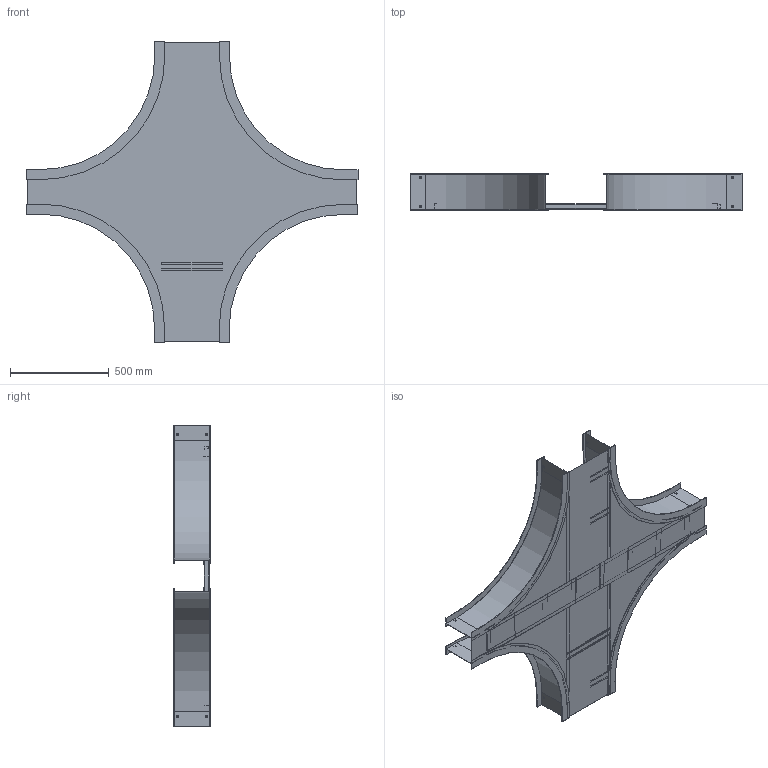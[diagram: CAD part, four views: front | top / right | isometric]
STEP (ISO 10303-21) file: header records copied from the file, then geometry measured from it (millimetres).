
FILE_DESCRIPTION((''),'2;1');
FILE_NAME('AHF70612SEX24_ASM','2010-02-01T',('erouzier'),(''),'PRO/ENGINEER BY PARAMETRIC TECHNOLOGY CORPORATION, 2008510','PRO/ENGINEER BY PARAMETRIC TECHNOLOGY CORPORATION, 2008510','');
FILE_SCHEMA(('CONFIG_CONTROL_DESIGN'));
Length unit declared in the file: inch
Products named in the file (18): CDS001813-7-90-24-I; CDS002159L6_AF8; CDS002159L6_AF9; CDS002159L6_AF10; CDS002159L6_AF11; CDS002159L6_AF12; CDS002159L6_AF13; CDS002159L6_AF14; CDS002159L6_AF15; CDS000495_GEN_AF18; CDS000495_GEN_AF19; CDS000495_GEN_AF22; CDS000495_GEN_AF23; CDS000495_GEN_AF20; CDS000495_GEN_AF21; CDS002159L12; CDS014308-6-24-12; AHF70612SEX24_ASM
Assembly tree (23 placements, depth 2):
  AHF70612SEX24_ASM
    CDS001813-7-90-24-I  x4
    CDS002159L6_AF8
    CDS002159L6_AF9
    CDS002159L6_AF10
    CDS002159L6_AF11
    CDS002159L6_AF12
    CDS002159L6_AF13
    CDS002159L6_AF14
    CDS002159L6_AF15
    CDS000495_GEN_AF18
    CDS000495_GEN_AF19
    CDS000495_GEN_AF22
    CDS000495_GEN_AF23
    CDS000495_GEN_AF20
    CDS000495_GEN_AF21
    CDS002159L12  x4
    CDS014308-6-24-12
Bounding box: 1681.99 x 183.9 x 1529.59 mm (x, y, z)
Volume: 5420687.6 mm3; surface area: 5746284.5 mm2
Topology: 23 solids, 23 shells, 606 faces, 1680 edges, 1120 vertices
Faces by surface type: plane 446, cylinder 160
Entity records: 12805 total; most frequent: CARTESIAN_POINT 2211, DIRECTION 2148, ORIENTED_EDGE 2136, EDGE_CURVE 1068, VECTOR 850, LINE 850, VERTEX_POINT 712, AXIS2_PLACEMENT_3D 649
